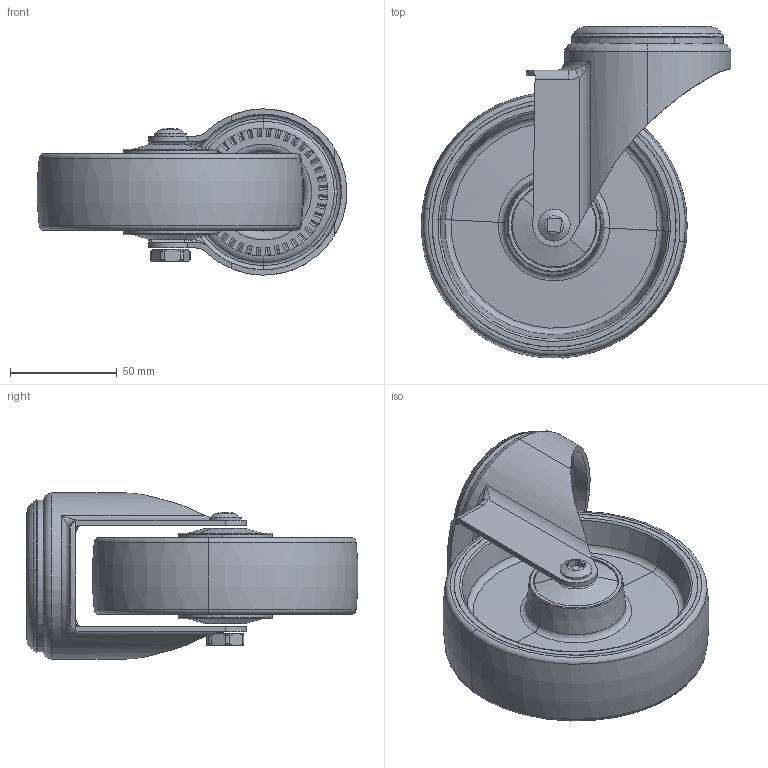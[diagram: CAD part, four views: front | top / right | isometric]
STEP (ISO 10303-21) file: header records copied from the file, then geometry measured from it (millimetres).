
FILE_DESCRIPTION (( 'STEP AP203' ), '1' );
FILE_NAME ('400228_STEP.STEP', '2011-08-29T07:14:32', ( '' ), ( '' ), 'SwSTEP 2.0', 'SolidWorks 2011', '' );
FILE_SCHEMA (( 'CONFIG_CONTROL_DESIGN' ));
Length unit declared in the file: millimetre
Products named in the file (1): 400228_STEP
Bounding box: 145.22 x 155.68 x 78 mm (x, y, z)
Surface area: 120645.1 mm2 (no closed solid volume)
Topology: 0 solids, 15 shells, 414 faces, 1716 edges, 1236 vertices
Faces by surface type: plane 189, cone 77, cylinder 72, torus 54, bspline 22
Entity records: 20781 total; most frequent: CARTESIAN_POINT 8535, ORIENTED_EDGE 2592, DIRECTION 1974, EDGE_CURVE 1712, VERTEX_POINT 1236, B_SPLINE_CURVE_WITH_KNOTS 756, AXIS2_PLACEMENT_3D 717, VECTOR 540
